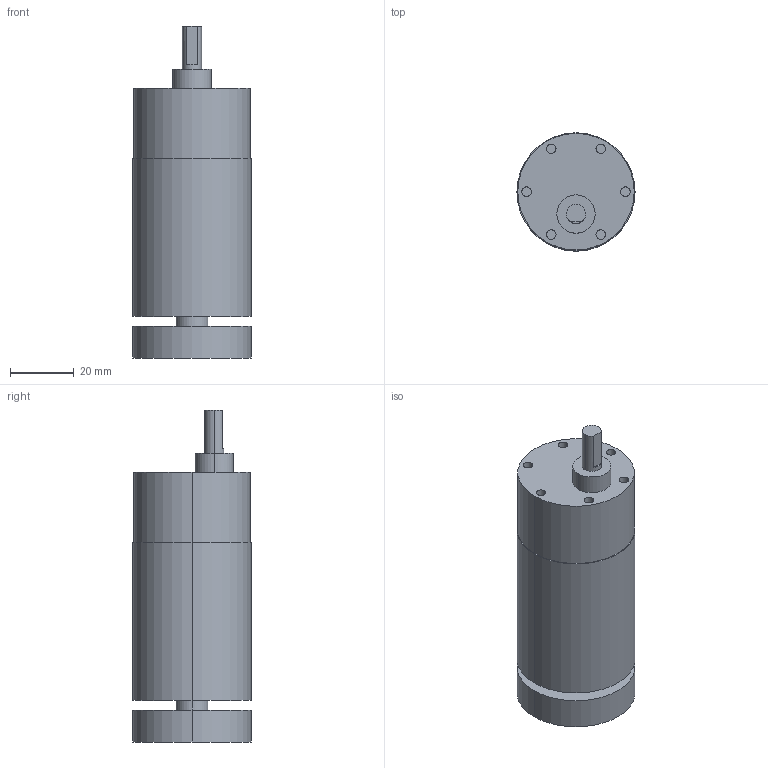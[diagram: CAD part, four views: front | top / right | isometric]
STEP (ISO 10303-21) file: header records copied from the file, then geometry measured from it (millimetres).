
FILE_DESCRIPTION (( 'STEP AP214' ), '1' );
FILE_NAME ('JGB37-545.STEP', '2026-02-22T20:00:41', ( '' ), ( '' ), 'SwSTEP 2.0', 'SolidWorks 2024', '' );
FILE_SCHEMA (( 'AUTOMOTIVE_DESIGN' ));
Length unit declared in the file: millimetre
Products named in the file (1): JGB37-545
Bounding box: 37 x 37 x 104 mm (x, y, z)
Volume: 88065 mm3; surface area: 14438 mm2
Topology: 1 solids, 1 shells, 39 faces, 78 edges, 52 vertices
Faces by surface type: cylinder 24, plane 15
Entity records: 1065 total; most frequent: DIRECTION 208, CARTESIAN_POINT 170, ORIENTED_EDGE 156, AXIS2_PLACEMENT_3D 90, EDGE_CURVE 78, VERTEX_POINT 52, EDGE_LOOP 50, CIRCLE 50
